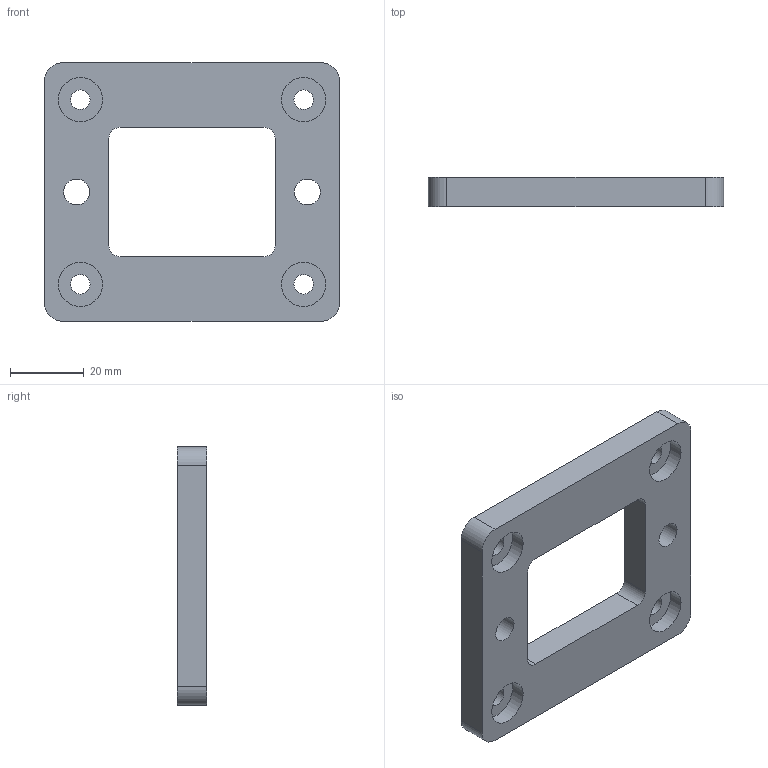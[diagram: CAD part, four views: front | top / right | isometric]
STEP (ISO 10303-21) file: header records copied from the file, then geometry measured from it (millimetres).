
FILE_DESCRIPTION(/* description */ (''),/* implementation_level */ '2;1');
FILE_NAME(/* name */ 'Intersection Bottom.step',/* time_stamp */ '2025-04-22T12:35:47+05:30',/* author */ (''),/* organization */ (''),/* preprocessor_version */ 'ST-DEVELOPER v20.1',/* originating_system */ 'Autodesk Translation Framework v14.4.0.0',/* authorisation */ '');
FILE_SCHEMA (('AUTOMOTIVE_DESIGN { 1 0 10303 214 3 1 1 }'));
Length unit declared in the file: millimetre
Products named in the file (1): Intersection Bottom
Bounding box: 80 x 8 x 70 mm (x, y, z)
Volume: 29311.8 mm3; surface area: 12483.7 mm2
Topology: 1 solids, 1 shells, 32 faces, 78 edges, 52 vertices
Faces by surface type: cylinder 18, plane 14
Full cylindrical faces by diameter (mm): 5.3 x4, 7 x2, 12 x4
Entity records: 1026 total; most frequent: DIRECTION 180, CARTESIAN_POINT 163, ORIENTED_EDGE 156, EDGE_CURVE 78, AXIS2_PLACEMENT_3D 69, VERTEX_POINT 52, EDGE_LOOP 50, LINE 42
